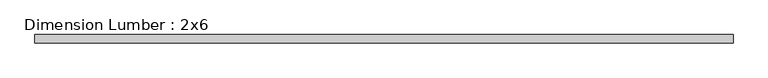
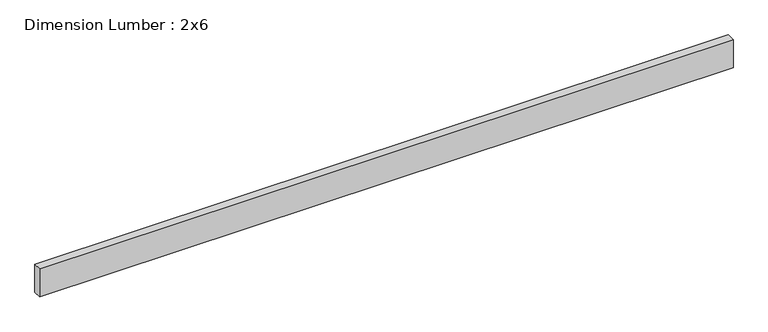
"""IFC4 building model written with IfcOpenShell, lengths in millimetres: beam geometry, Dimension Lumber : 2x6."""

import ifcopenshell
import ifcopenshell.guid

model = None  # the IFC model being written
_history = None  # IfcOwnerHistory: only IFC2X3 demands one
_inside = {}  # id of a spatial element -> (the spatial element, [elements in it])
_under = {}  # id of a project, library or spatial element -> (it, [spatial elements below it])
_declared = {}  # id of a project -> (the project, [libraries it declares])
_typed = {}  # id of a type object -> (the type object, [elements of that type])
_made_of = {}  # id of a material, layer set ... -> (it, [elements and type objects made of it])


def new_model(schema):
    """Start an empty IFC model of exactly this schema.

    Asked for "IFC4X3", IfcOpenShell would pick the latest addendum, in which some entities
    have other attributes; the version numbers below select the first issue.
    IFC2X3 requires an IfcOwnerHistory on every rooted entity: one is made here for all.
    """
    global model, _history
    if schema == "IFC4X3":
        model = ifcopenshell.file(schema_version=(4, 3, 0, 0))
    else:
        model = ifcopenshell.file(schema=schema)
    _inside.clear()
    _under.clear()
    _declared.clear()
    _typed.clear()
    _made_of.clear()
    _history = None
    if model.schema == "IFC2X3":
        org = make("IfcOrganization", Name="unknown")
        user = make(
            "IfcPersonAndOrganization",
            ThePerson=make("IfcPerson", FamilyName="unknown"),
            TheOrganization=org,
        )
        app = make(
            "IfcApplication",
            ApplicationDeveloper=org,
            Version="unknown",
            ApplicationFullName="unknown",
            ApplicationIdentifier="unknown",
        )
        _history = make(
            "IfcOwnerHistory",
            OwningUser=user,
            OwningApplication=app,
            ChangeAction="ADDED",
            CreationDate=0,
        )
    return model


def make(cls, **values):
    """One entity of the class cls with the attributes given. An attribute that is None is left unset."""
    return model.create_entity(
        cls, **{name: value for name, value in values.items() if value is not None}
    )


def rooted(cls, **values):
    """An entity with a GlobalId (a new one), such as an element, a storey or a relation."""
    return make(cls, GlobalId=ifcopenshell.guid.new(), OwnerHistory=_history, **values)


def si_unit(unit_type, name, prefix=None):
    """IfcSIUnit, for example si_unit("LENGTHUNIT", "METRE", prefix="MILLI")."""
    return make("IfcSIUnit", UnitType=unit_type, Prefix=prefix, Name=name)


def assignment(units):
    """IfcUnitAssignment: the units of a project."""
    return None if units is None else make("IfcUnitAssignment", Units=units)


def point(xyz):
    """IfcCartesianPoint."""
    return None if xyz is None else make("IfcCartesianPoint", Coordinates=xyz)


def direction(xyz):
    """IfcDirection."""
    return None if xyz is None else make("IfcDirection", DirectionRatios=xyz)


def frame(location, z_axis=None, x_axis=None):
    """IfcAxis2Placement3D, a coordinate frame: its origin and axes. An axis left out is left unset."""
    return make(
        "IfcAxis2Placement3D",
        Location=point(location),
        Axis=direction(z_axis),
        RefDirection=direction(x_axis),
    )


def origin():
    """The frame at (0, 0, 0) with its axes left unset."""
    return frame((0.0, 0.0, 0.0))


def place(relative_to, where):
    """IfcLocalPlacement: puts the frame where relative to a parent placement (None: the world)."""
    return make(
        "IfcLocalPlacement", PlacementRelTo=relative_to, RelativePlacement=where
    )


def context(
    kind, dimensions, precision=None, world=None, true_north=None, identifier=None
):
    """IfcGeometricRepresentationContext, for example the 3D "Model" context."""
    return make(
        "IfcGeometricRepresentationContext",
        ContextIdentifier=identifier,
        ContextType=kind,
        CoordinateSpaceDimension=dimensions,
        Precision=precision,
        WorldCoordinateSystem=world,
        TrueNorth=true_north,
    )


def project(units=None, contexts=None):
    """IfcProject with its units and contexts."""
    return rooted(
        "IfcProject",
        Name="project",
        RepresentationContexts=contexts,
        UnitsInContext=assignment(units),
    )


def spatial(cls, under=None, at=None, **own):
    """A site, building, storey or space (cls), placed at a placement, below another one or the project."""
    s = rooted(cls, ObjectPlacement=at, **own)
    if under is not None:
        _under.setdefault(under.id(), (under, []))[1].append(s)
    return s


def polyline(points):
    """IfcPolyline through the points."""
    return make("IfcPolyline", Points=[point(p) for p in points])


def outline(outer, holes=None, kind="AREA"):
    """IfcArbitraryClosedProfileDef: a profile drawn as a closed curve; with holes, ...WithVoids."""
    if holes is None:
        return make("IfcArbitraryClosedProfileDef", ProfileType=kind, OuterCurve=outer)
    return make(
        "IfcArbitraryProfileDefWithVoids",
        ProfileType=kind,
        OuterCurve=outer,
        InnerCurves=holes,
    )


def extrude(swept, where, along, depth):
    """IfcExtrudedAreaSolid: the profile swept, set in the frame where, extruded along a direction by depth."""
    return make(
        "IfcExtrudedAreaSolid",
        SweptArea=swept,
        Position=where,
        ExtrudedDirection=direction(along),
        Depth=depth,
    )


def shape(context_of_items, identifier, shape_type, items):
    """IfcShapeRepresentation: the items that make up one representation, for example the "Body"."""
    return make(
        "IfcShapeRepresentation",
        ContextOfItems=context_of_items,
        RepresentationIdentifier=identifier,
        RepresentationType=shape_type,
        Items=items,
    )


def source(mapping_origin, context_of_items, identifier, shape_type, items):
    """IfcRepresentationMap: a shape defined once, which mapped items show again and again."""
    return make(
        "IfcRepresentationMap",
        MappingOrigin=mapping_origin,
        MappedRepresentation=shape(context_of_items, identifier, shape_type, items),
    )


def transform(
    local_origin,
    x_axis=None,
    y_axis=None,
    z_axis=None,
    scale=None,
    scale2=None,
    scale3=None,
    uniform=True,
):
    """IfcCartesianTransformationOperator3D, or its non-uniform kind. x_axis, y_axis, z_axis: its Axis1, 2, 3."""
    if uniform:
        return make(
            "IfcCartesianTransformationOperator3D",
            Axis1=direction(x_axis),
            Axis2=direction(y_axis),
            LocalOrigin=point(local_origin),
            Scale=scale,
            Axis3=direction(z_axis),
        )
    return make(
        "IfcCartesianTransformationOperator3DnonUniform",
        Axis1=direction(x_axis),
        Axis2=direction(y_axis),
        LocalOrigin=point(local_origin),
        Scale=scale,
        Axis3=direction(z_axis),
        Scale2=scale2,
        Scale3=scale3,
    )


def mapped(mapping_source, mapping_target):
    """IfcMappedItem: shows the shape of a source again, moved by a transform."""
    return make(
        "IfcMappedItem", MappingSource=mapping_source, MappingTarget=mapping_target
    )


def made_of(thing, what):
    """Note that an element or type object is made of a material, layer set ...; save() writes the relation."""
    if what is not None:
        _made_of.setdefault(what.id(), (what, []))[1].append(thing)
    return thing


def element(
    cls,
    number,
    at=None,
    inside=None,
    cuts=None,
    type_object=None,
    material=None,
    context=None,
    identifier="Body",
    shape_type=None,
    held_by="IfcProductDefinitionShape",
    body=None,
    shapes=None,
    **own,
):
    """One element of the class cls, such as IfcWall. Its Tag is "e" and its number.

    at: its placement. inside: the storey or other place that contains it. cuts: it is an
    opening in that element (IfcRelVoidsElement). A single representation is given by context,
    identifier, shape_type and body (its items); several are given by shapes. held_by: the class
    of the entity that holds the representations. save() writes the other relations.
    """
    e = rooted(cls, Tag="e%d" % number, ObjectPlacement=at, **own)
    if body is not None:
        shapes = [shape(context, identifier, shape_type, body)]
    if shapes is not None:
        e.Representation = make(held_by, Representations=shapes)
    if inside is not None:
        _inside.setdefault(inside.id(), (inside, []))[1].append(e)
    if cuts is not None:
        rooted(
            "IfcRelVoidsElement", RelatingBuildingElement=cuts, RelatedOpeningElement=e
        )
    if type_object is not None:
        _typed.setdefault(type_object.id(), (type_object, []))[1].append(e)
    return made_of(e, material)


def aggregate(whole, parts):
    """IfcRelAggregates: a whole, such as a stair, and the parts it consists of."""
    return rooted("IfcRelAggregates", RelatingObject=whole, RelatedObjects=parts)


def save(model, path):
    """Write the relations noted so far, then the file.

    IfcRelAggregates (storeys below a building ...), IfcRelContainedInSpatialStructure (elements
    in a storey), IfcRelDefinesByType, IfcRelAssociatesMaterial and IfcRelDeclares: one each for
    every whole, place, type object, material and project.
    """
    for whole, parts in _under.values():
        aggregate(whole, parts)
    for where, things in _inside.values():
        rooted(
            "IfcRelContainedInSpatialStructure",
            RelatedElements=things,
            RelatingStructure=where,
        )
    for kind, things in _typed.values():
        rooted("IfcRelDefinesByType", RelatedObjects=things, RelatingType=kind)
    for what, things in _made_of.values():
        rooted("IfcRelAssociatesMaterial", RelatedObjects=things, RelatingMaterial=what)
    for by, libraries in _declared.values():
        rooted("IfcRelDeclares", RelatingContext=by, RelatedDefinitions=libraries)
    model.write(path)


def dimension_lumber_2x6_0ad30bdc(model_context):
    return source(origin(), model_context, "Body", "SweptSolid", [
        extrude(outline(polyline([(1606.55, 19.05), (1606.55, -19.05), (-1644.65, -19.05), (-1644.65, 19.05), (1606.55, 19.05)])), frame((0.0, 0.0, -69.85), z_axis=(0.0, 0.0, 1.0), x_axis=(1.0, 0.0, 0.0)), (0.0, 0.0, 1.0), 139.7),
    ])


if __name__ == "__main__":
    model = new_model("IFC4")
    model_context = context("Model", 3, world=origin())
    ifc_project = project(units=[si_unit("LENGTHUNIT", "METRE", prefix="MILLI")], contexts=[model_context])
    site = spatial("IfcSite", under=ifc_project)
    building = spatial("IfcBuilding", under=site)
    placement = place(None, origin())
    dimension_lumber_2x6_shape = dimension_lumber_2x6_0ad30bdc(model_context)
    element("IfcBeam", 1, ObjectType="Dimension Lumber : 2x6", at=placement, inside=building, context=model_context, shape_type="MappedRepresentation", body=[
        mapped(dimension_lumber_2x6_shape, transform((0.0, 0.0, 0.0), x_axis=(1.0, 0.0, 0.0), y_axis=(0.0, 1.0, 0.0), z_axis=(0.0, 0.0, 1.0))),
    ])
    save(model, "model.ifc")
